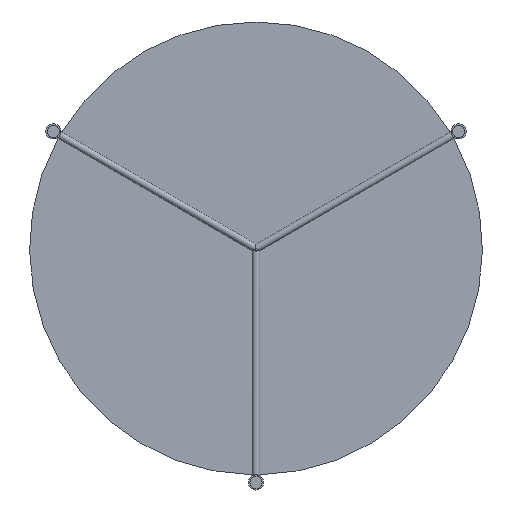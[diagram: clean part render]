
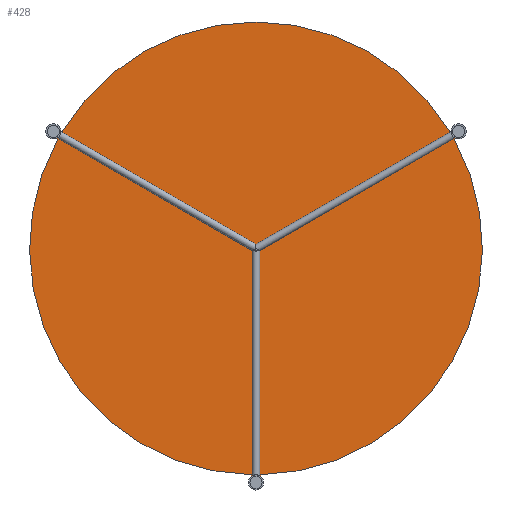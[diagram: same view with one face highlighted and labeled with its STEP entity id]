
A CAD part, front view. The second image highlights one B-rep face of the part: STEP entity #428.
In plain terms, the highlighted planar face has unit normal (0, -1, 0).
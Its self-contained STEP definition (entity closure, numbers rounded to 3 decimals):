
#8 = VERTEX_POINT ( 'NONE', #3386 ) ;
#10 = CARTESIAN_POINT ( 'NONE',  ( 0., 351., 0. ) ) ;
#20 = CARTESIAN_POINT ( 'NONE',  ( -268.528, 351., 155.035 ) ) ;
#70 = DIRECTION ( 'NONE',  ( 0., 1., 0. ) ) ;
#103 = DIRECTION ( 'NONE',  ( 0., 0., -1. ) ) ;
#111 = LINE ( 'NONE', #1438, #1920 ) ;
#159 = DIRECTION ( 'NONE',  ( 0.866, 0., 0.5 ) ) ;
#173 = EDGE_CURVE ( 'NONE', #282, #3444, #2196, .T. ) ;
#203 = EDGE_CURVE ( 'NONE', #3444, #8, #4148, .T. ) ;
#240 = DIRECTION ( 'NONE',  ( -0.866, 0., 0.5 ) ) ;
#257 = CIRCLE ( 'NONE', #1503, 10. ) ;
#275 = ORIENTED_EDGE ( 'NONE', *, *, #173, .T. ) ;
#282 = VERTEX_POINT ( 'NONE', #1396 ) ;
#298 = LINE ( 'NONE', #1974, #1361 ) ;
#310 = AXIS2_PLACEMENT_3D ( 'NONE', #1001, #2011, #3376 ) ;
#428 = ADVANCED_FACE ( 'NONE', ( #3241 ), #3529, .T. ) ;
#477 = CARTESIAN_POINT ( 'NONE',  ( 0., 351., 0. ) ) ;
#520 = VECTOR ( 'NONE', #159, 1000. ) ;
#581 = ORIENTED_EDGE ( 'NONE', *, *, #3295, .T. ) ;
#601 = EDGE_CURVE ( 'NONE', #3960, #2007, #2768, .T. ) ;
#625 = CARTESIAN_POINT ( 'NONE',  ( 262.756, 351., 144.774 ) ) ;
#779 = DIRECTION ( 'NONE',  ( 0., -1., 0. ) ) ;
#799 = AXIS2_PLACEMENT_3D ( 'NONE', #3910, #1529, #2259 ) ;
#800 = ORIENTED_EDGE ( 'NONE', *, *, #2513, .T. ) ;
#845 = VERTEX_POINT ( 'NONE', #4310 ) ;
#875 = CIRCLE ( 'NONE', #4266, 300. ) ;
#1001 = CARTESIAN_POINT ( 'NONE',  ( 0., 351., 0. ) ) ;
#1005 = EDGE_CURVE ( 'NONE', #3214, #3850, #2784, .T. ) ;
#1015 = EDGE_CURVE ( 'NONE', #3674, #4305, #1080, .T. ) ;
#1043 = DIRECTION ( 'NONE',  ( 0., 0., -1. ) ) ;
#1062 = DIRECTION ( 'NONE',  ( 0., 1., 0. ) ) ;
#1080 = CIRCLE ( 'NONE', #2913, 300. ) ;
#1179 = CARTESIAN_POINT ( 'NONE',  ( 258.6, 351., 156.231 ) ) ;
#1277 = CARTESIAN_POINT ( 'NONE',  ( -264.6, 351., 145.839 ) ) ;
#1333 = DIRECTION ( 'NONE',  ( 0., 0., -1. ) ) ;
#1361 = VECTOR ( 'NONE', #240, 1000. ) ;
#1362 = DIRECTION ( 'NONE',  ( 0., -1., 0. ) ) ;
#1396 = CARTESIAN_POINT ( 'NONE',  ( 6., 351., -299.94 ) ) ;
#1427 = EDGE_CURVE ( 'NONE', #8, #3651, #2776, .T. ) ;
#1438 = CARTESIAN_POINT ( 'NONE',  ( -6., 351., -310.07 ) ) ;
#1478 = ORIENTED_EDGE ( 'NONE', *, *, #601, .T. ) ;
#1503 = AXIS2_PLACEMENT_3D ( 'NONE', #20, #70, #1043 ) ;
#1529 = DIRECTION ( 'NONE',  ( 0., -1., 0. ) ) ;
#1544 = ORIENTED_EDGE ( 'NONE', *, *, #2173, .T. ) ;
#1650 = AXIS2_PLACEMENT_3D ( 'NONE', #10, #2738, #1333 ) ;
#1710 = EDGE_CURVE ( 'NONE', #4256, #3214, #257, .T. ) ;
#1743 = DIRECTION ( 'NONE',  ( 0., 1., 0. ) ) ;
#1787 = EDGE_CURVE ( 'NONE', #2947, #3960, #111, .T. ) ;
#1871 = DIRECTION ( 'NONE',  ( 0., 0., -1. ) ) ;
#1879 = EDGE_LOOP ( 'NONE', ( #2647, #2271, #4109, #800, #2798, #1478, #3580, #275, #2815, #3333, #581, #1544, #2124 ) ) ;
#1920 = VECTOR ( 'NONE', #4147, 1000. ) ;
#1974 = CARTESIAN_POINT ( 'NONE',  ( -265.528, 351., 160.231 ) ) ;
#2007 = VERTEX_POINT ( 'NONE', #2723 ) ;
#2011 = DIRECTION ( 'NONE',  ( 0., -1., 0. ) ) ;
#2118 = CARTESIAN_POINT ( 'NONE',  ( 0., 351., -310.07 ) ) ;
#2124 = ORIENTED_EDGE ( 'NONE', *, *, #1015, .T. ) ;
#2162 = LINE ( 'NONE', #2208, #2928 ) ;
#2173 = EDGE_CURVE ( 'NONE', #845, #3674, #875, .T. ) ;
#2196 = CIRCLE ( 'NONE', #310, 300. ) ;
#2205 = VECTOR ( 'NONE', #4159, 1000. ) ;
#2208 = CARTESIAN_POINT ( 'NONE',  ( 256.756, 351., 155.166 ) ) ;
#2259 = DIRECTION ( 'NONE',  ( 0., 0., -1. ) ) ;
#2271 = ORIENTED_EDGE ( 'NONE', *, *, #1710, .T. ) ;
#2292 = CARTESIAN_POINT ( 'NONE',  ( -262.756, 351., 144.774 ) ) ;
#2364 = EDGE_CURVE ( 'NONE', #4305, #4256, #298, .T. ) ;
#2436 = CARTESIAN_POINT ( 'NONE',  ( 0., 351., 0. ) ) ;
#2513 = EDGE_CURVE ( 'NONE', #3850, #2947, #3998, .T. ) ;
#2543 = EDGE_CURVE ( 'NONE', #2007, #282, #4096, .T. ) ;
#2647 = ORIENTED_EDGE ( 'NONE', *, *, #2364, .T. ) ;
#2723 = CARTESIAN_POINT ( 'NONE',  ( 6., 351., -302.07 ) ) ;
#2738 = DIRECTION ( 'NONE',  ( 0., -1., 0. ) ) ;
#2746 = DIRECTION ( 'NONE',  ( -0.866, 0., -0.5 ) ) ;
#2768 = CIRCLE ( 'NONE', #3267, 10. ) ;
#2776 = CIRCLE ( 'NONE', #3276, 10. ) ;
#2784 = LINE ( 'NONE', #4143, #2205 ) ;
#2798 = ORIENTED_EDGE ( 'NONE', *, *, #1787, .T. ) ;
#2807 = DIRECTION ( 'NONE',  ( 0., 0., -1. ) ) ;
#2815 = ORIENTED_EDGE ( 'NONE', *, *, #203, .T. ) ;
#2913 = AXIS2_PLACEMENT_3D ( 'NONE', #2436, #1362, #103 ) ;
#2928 = VECTOR ( 'NONE', #2746, 1000. ) ;
#2947 = VERTEX_POINT ( 'NONE', #3845 ) ;
#3097 = CARTESIAN_POINT ( 'NONE',  ( 268.528, 351., 155.035 ) ) ;
#3214 = VERTEX_POINT ( 'NONE', #1277 ) ;
#3241 = FACE_OUTER_BOUND ( 'NONE', #1879, .T. ) ;
#3267 = AXIS2_PLACEMENT_3D ( 'NONE', #2118, #1062, #2807 ) ;
#3276 = AXIS2_PLACEMENT_3D ( 'NONE', #3097, #1743, #3340 ) ;
#3295 = EDGE_CURVE ( 'NONE', #3651, #845, #2162, .T. ) ;
#3333 = ORIENTED_EDGE ( 'NONE', *, *, #1427, .T. ) ;
#3340 = DIRECTION ( 'NONE',  ( 0., 0., -1. ) ) ;
#3354 = VECTOR ( 'NONE', #4051, 1000. ) ;
#3376 = DIRECTION ( 'NONE',  ( 0., 0., -1. ) ) ;
#3380 = CARTESIAN_POINT ( 'NONE',  ( -6., 351., -302.07 ) ) ;
#3386 = CARTESIAN_POINT ( 'NONE',  ( 264.6, 351., 145.839 ) ) ;
#3444 = VERTEX_POINT ( 'NONE', #625 ) ;
#3484 = CARTESIAN_POINT ( 'NONE',  ( -256.756, 351., 155.166 ) ) ;
#3529 = PLANE ( 'NONE',  #799 ) ;
#3580 = ORIENTED_EDGE ( 'NONE', *, *, #2543, .T. ) ;
#3651 = VERTEX_POINT ( 'NONE', #1179 ) ;
#3674 = VERTEX_POINT ( 'NONE', #4156 ) ;
#3763 = CARTESIAN_POINT ( 'NONE',  ( 6., 351., -299.94 ) ) ;
#3798 = CARTESIAN_POINT ( 'NONE',  ( 271.528, 351., 149.839 ) ) ;
#3845 = CARTESIAN_POINT ( 'NONE',  ( -6., 351., -299.94 ) ) ;
#3850 = VERTEX_POINT ( 'NONE', #2292 ) ;
#3910 = CARTESIAN_POINT ( 'NONE',  ( 0., 351., 0. ) ) ;
#3960 = VERTEX_POINT ( 'NONE', #3380 ) ;
#3998 = CIRCLE ( 'NONE', #1650, 300. ) ;
#4051 = DIRECTION ( 'NONE',  ( 0., 0., 1. ) ) ;
#4087 = CARTESIAN_POINT ( 'NONE',  ( -258.6, 351., 156.231 ) ) ;
#4096 = LINE ( 'NONE', #3763, #3354 ) ;
#4109 = ORIENTED_EDGE ( 'NONE', *, *, #1005, .T. ) ;
#4143 = CARTESIAN_POINT ( 'NONE',  ( -262.756, 351., 144.774 ) ) ;
#4147 = DIRECTION ( 'NONE',  ( 0., 0., -1. ) ) ;
#4148 = LINE ( 'NONE', #3798, #520 ) ;
#4156 = CARTESIAN_POINT ( 'NONE',  ( 0., 351., 300. ) ) ;
#4159 = DIRECTION ( 'NONE',  ( 0.866, 0., -0.5 ) ) ;
#4256 = VERTEX_POINT ( 'NONE', #4087 ) ;
#4266 = AXIS2_PLACEMENT_3D ( 'NONE', #477, #779, #1871 ) ;
#4305 = VERTEX_POINT ( 'NONE', #3484 ) ;
#4310 = CARTESIAN_POINT ( 'NONE',  ( 256.756, 351., 155.166 ) ) ;
